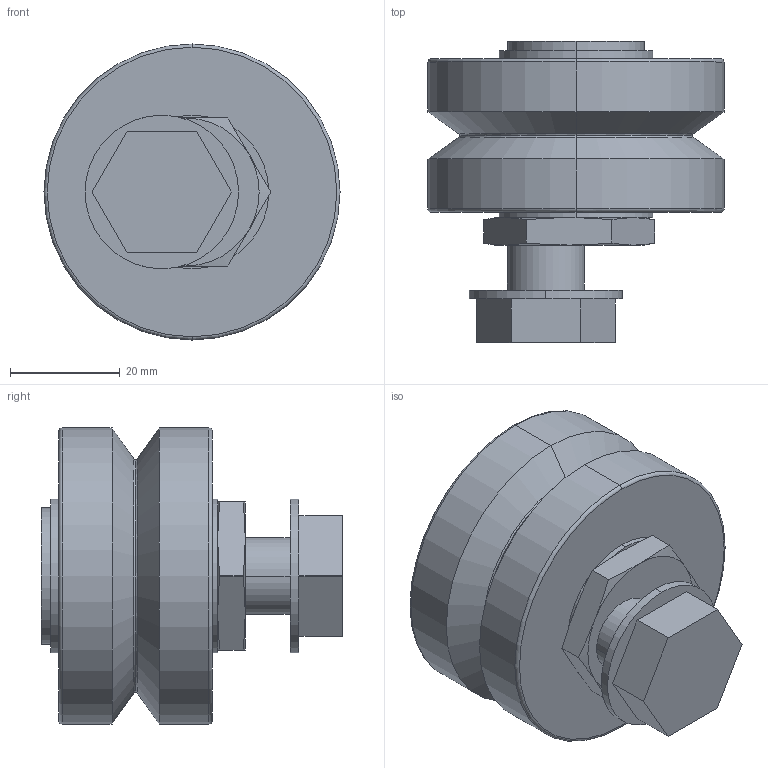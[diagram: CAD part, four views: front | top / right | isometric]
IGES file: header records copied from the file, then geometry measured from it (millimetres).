
Start section: 3D InterOp IGES (Version 21 0 1), Spatial Corp. Copyright (c) 1999-2007.
Global section: file name: RSFJ54DENS.igs; native system: Spatial Corp.; preprocessor: 3D InterOp GENERIC/IGES 3.0; author: Noname; organization: Noname; date: 20220627.163415; units: millimetre
Bounding box: 54 x 55 x 54 mm (x, y, z)
Surface area: 22963.5 mm2 (no closed solid volume)
Topology: 0 solids, 0 shells, 70 faces, 352 edges, 352 vertices
Faces by surface type: revolution 40, extrusion 30
